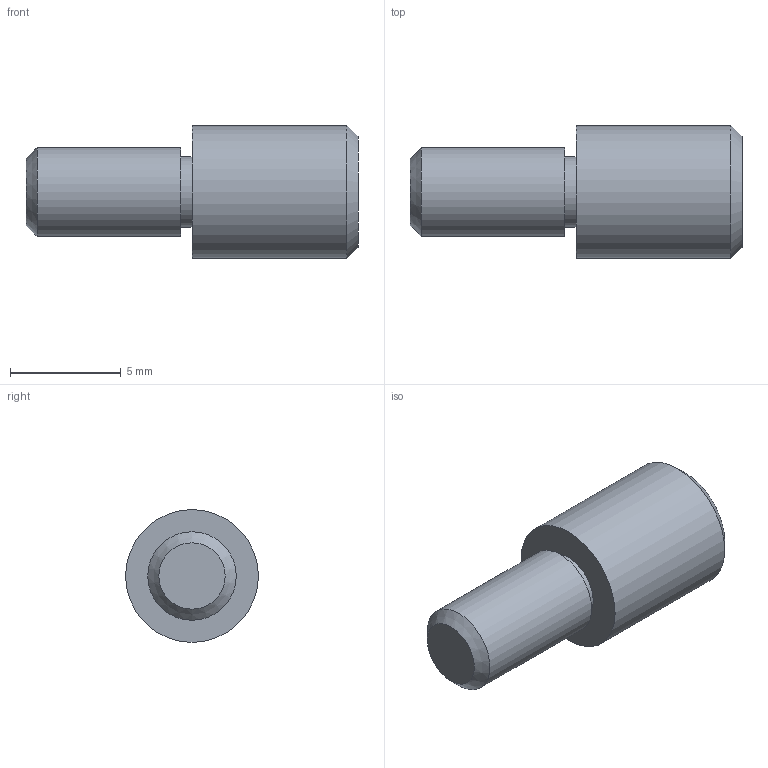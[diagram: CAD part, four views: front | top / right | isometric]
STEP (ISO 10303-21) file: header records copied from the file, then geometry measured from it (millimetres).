
FILE_DESCRIPTION (( 'STEP AP203' ), '1' );
FILE_NAME ('TAEM6M4.STEP', '2022-01-04T09:44:12', ( '' ), ( '' ), 'SwSTEP 2.0', 'SolidWorks 2019', '' );
FILE_SCHEMA (( 'CONFIG_CONTROL_DESIGN' ));
Length unit declared in the file: millimetre
Products named in the file (1): TAEM6M4
Bounding box: 15 x 6 x 6 mm (x, y, z)
Volume: 300.4 mm3; surface area: 290.1 mm2
Topology: 1 solids, 1 shells, 9 faces, 14 edges, 9 vertices
Faces by surface type: plane 4, cylinder 3, cone 2
Full cylindrical faces by diameter (mm): 3.2 x1, 4 x1, 6 x1
Entity records: 251 total; most frequent: DIRECTION 36, CARTESIAN_POINT 26, AXIS2_PLACEMENT_3D 18, EDGE_LOOP 16, ORIENTED_EDGE 16, FACE_OUTER_BOUND 12, ADVANCED_FACE 9, CIRCLE 8
